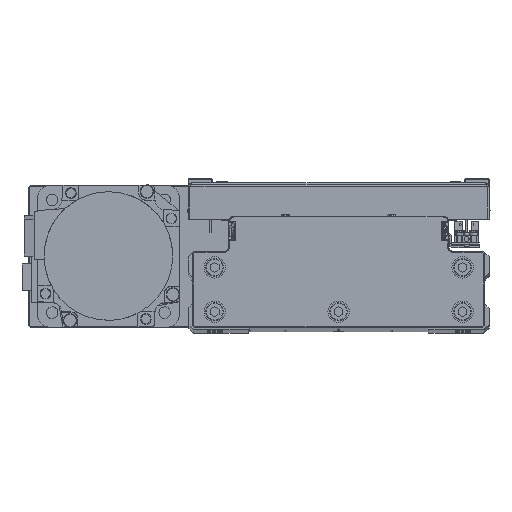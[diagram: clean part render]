
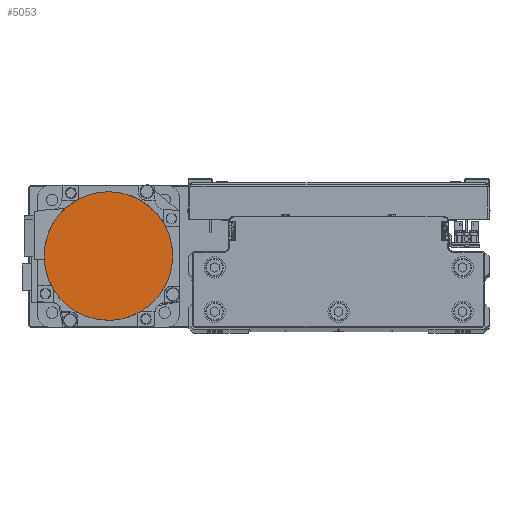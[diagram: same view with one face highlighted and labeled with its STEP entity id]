
A CAD part, top view. The second image highlights one B-rep face of the part: STEP entity #5053.
In plain terms, the highlighted planar face has unit normal (0, 0, 1) as drawn and (0, 0, -1) by its records, which use the part's own axes.
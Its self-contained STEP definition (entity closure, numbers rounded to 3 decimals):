
#571 = EDGE_CURVE ( 'NONE', #40578, #26205, #19629, .T. ) ;
#2186 = PLANE ( 'NONE',  #31482 ) ;
#2934 = CARTESIAN_POINT ( 'NONE',  ( -18.192, 31.502, -122.2 ) ) ;
#2985 = CARTESIAN_POINT ( 'NONE',  ( -18.192, -31.502, -122.2 ) ) ;
#4468 = CIRCLE ( 'NONE', #29986, 36.3 ) ;
#4546 = ORIENTED_EDGE ( 'NONE', *, *, #16336, .F. ) ;
#4824 = ORIENTED_EDGE ( 'NONE', *, *, #26633, .F. ) ;
#5053 = ADVANCED_FACE ( 'NONE', ( #33458 ), #2186, .F. ) ;
#6353 = CARTESIAN_POINT ( 'NONE',  ( -9.412, 35.139, -122.2 ) ) ;
#6402 = CARTESIAN_POINT ( 'NONE',  ( -27.348, -23.988, -122.2 ) ) ;
#6581 = CARTESIAN_POINT ( 'NONE',  ( -36.3, 2.376, -122.2 ) ) ;
#9777 = CARTESIAN_POINT ( 'NONE',  ( 0., 36.3, -122.2 ) ) ;
#9820 = CARTESIAN_POINT ( 'NONE',  ( -32.628, -16.086, -122.2 ) ) ;
#9995 = CARTESIAN_POINT ( 'NONE',  ( -34.446, 11.696, -122.2 ) ) ;
#11725 = DIRECTION ( 'NONE',  ( -1., 0., 0. ) ) ;
#12238 = CARTESIAN_POINT ( 'NONE',  ( 0., 36.3, -122.2 ) ) ;
#13269 = CARTESIAN_POINT ( 'NONE',  ( -36.066, -4.752, -122.2 ) ) ;
#13433 = CARTESIAN_POINT ( 'NONE',  ( -28.862, 22.143, -122.2 ) ) ;
#13474 = DIRECTION ( 'NONE',  ( -1., 0., 0. ) ) ;
#13480 = CARTESIAN_POINT ( 'NONE',  ( -4.752, -36.066, -122.2 ) ) ;
#14552 = B_SPLINE_CURVE_WITH_KNOTS ( 'NONE', 3,
 ( #9777, #23704, #37614, #6353, #20290, #34202, #2934, #16876, #30788, #44688, #13433, #27355, #41265, #9995, #23933, #37852, #6581, #20517 ),
 .UNSPECIFIED., .F., .F.,
 ( 4, 2, 2, 2, 2, 2, 2, 2, 4 ),
 ( 0., 0.125, 0.25, 0.375, 0.5, 0.625, 0.75, 0.875, 1. ),
 .UNSPECIFIED. ) ;
#14582 = CARTESIAN_POINT ( 'NONE',  ( -36.3, 0., -122.2 ) ) ;
#16123 = CARTESIAN_POINT ( 'NONE',  ( 0., 0., -122.2 ) ) ;
#16336 = EDGE_CURVE ( 'NONE', #33902, #40578, #4468, .T. ) ;
#16441 = CARTESIAN_POINT ( 'NONE',  ( 36.3, 0., -122.2 ) ) ;
#16876 = CARTESIAN_POINT ( 'NONE',  ( -22.143, 28.862, -122.2 ) ) ;
#16923 = CARTESIAN_POINT ( 'NONE',  ( -16.086, -32.628, -122.2 ) ) ;
#18626 = EDGE_LOOP ( 'NONE', ( #4546, #4824, #20532, #30587 ) ) ;
#19629 = CIRCLE ( 'NONE', #45110, 36.3 ) ;
#20290 = CARTESIAN_POINT ( 'NONE',  ( -11.696, 34.446, -122.2 ) ) ;
#20340 = CARTESIAN_POINT ( 'NONE',  ( -23.988, -27.348, -122.2 ) ) ;
#20517 = CARTESIAN_POINT ( 'NONE',  ( -36.3, 0., -122.2 ) ) ;
#20532 = ORIENTED_EDGE ( 'NONE', *, *, #30193, .F. ) ;
#23704 = CARTESIAN_POINT ( 'NONE',  ( -2.376, 36.3, -122.2 ) ) ;
#23758 = CARTESIAN_POINT ( 'NONE',  ( -31.502, -18.192, -122.2 ) ) ;
#23933 = CARTESIAN_POINT ( 'NONE',  ( -35.139, 9.412, -122.2 ) ) ;
#26205 = VERTEX_POINT ( 'NONE', #12238 ) ;
#26633 = EDGE_CURVE ( 'NONE', #31573, #33902, #33252, .T. ) ;
#27194 = CARTESIAN_POINT ( 'NONE',  ( -35.139, -9.412, -122.2 ) ) ;
#27355 = CARTESIAN_POINT ( 'NONE',  ( -31.502, 18.192, -122.2 ) ) ;
#27401 = CARTESIAN_POINT ( 'NONE',  ( -2.376, -36.3, -122.2 ) ) ;
#29088 = CARTESIAN_POINT ( 'NONE',  ( 0., 0., -122.2 ) ) ;
#29986 = AXIS2_PLACEMENT_3D ( 'NONE', #30829, #44727, #13474 ) ;
#30039 = DIRECTION ( 'NONE',  ( 0., 0., 1. ) ) ;
#30193 = EDGE_CURVE ( 'NONE', #26205, #31573, #14552, .T. ) ;
#30587 = ORIENTED_EDGE ( 'NONE', *, *, #571, .F. ) ;
#30615 = CARTESIAN_POINT ( 'NONE',  ( -36.3, 0., -122.2 ) ) ;
#30788 = CARTESIAN_POINT ( 'NONE',  ( -23.988, 27.348, -122.2 ) ) ;
#30829 = CARTESIAN_POINT ( 'NONE',  ( 0., 0., -122.2 ) ) ;
#30836 = CARTESIAN_POINT ( 'NONE',  ( -11.696, -34.446, -122.2 ) ) ;
#31482 = AXIS2_PLACEMENT_3D ( 'NONE', #16123, #30039, #43943 ) ;
#31573 = VERTEX_POINT ( 'NONE', #14582 ) ;
#33252 = B_SPLINE_CURVE_WITH_KNOTS ( 'NONE', 3,
 ( #30615, #44521, #13269, #27194, #41105, #9820, #23758, #37666, #6402, #20340, #34251, #2985, #16923, #30836, #44736, #13480, #27401, #41319 ),
 .UNSPECIFIED., .F., .F.,
 ( 4, 2, 2, 2, 2, 2, 2, 2, 4 ),
 ( 0., 0.125, 0.25, 0.375, 0.5, 0.625, 0.75, 0.875, 1. ),
 .UNSPECIFIED. ) ;
#33458 = FACE_OUTER_BOUND ( 'NONE', #18626, .T. ) ;
#33902 = VERTEX_POINT ( 'NONE', #34143 ) ;
#34143 = CARTESIAN_POINT ( 'NONE',  ( 0., -36.3, -122.2 ) ) ;
#34202 = CARTESIAN_POINT ( 'NONE',  ( -16.086, 32.628, -122.2 ) ) ;
#34251 = CARTESIAN_POINT ( 'NONE',  ( -22.143, -28.862, -122.2 ) ) ;
#37614 = CARTESIAN_POINT ( 'NONE',  ( -4.752, 36.066, -122.2 ) ) ;
#37666 = CARTESIAN_POINT ( 'NONE',  ( -28.862, -22.143, -122.2 ) ) ;
#37852 = CARTESIAN_POINT ( 'NONE',  ( -36.066, 4.752, -122.2 ) ) ;
#40578 = VERTEX_POINT ( 'NONE', #16441 ) ;
#41105 = CARTESIAN_POINT ( 'NONE',  ( -34.446, -11.696, -122.2 ) ) ;
#41265 = CARTESIAN_POINT ( 'NONE',  ( -32.628, 16.086, -122.2 ) ) ;
#41319 = CARTESIAN_POINT ( 'NONE',  ( 0., -36.3, -122.2 ) ) ;
#42989 = DIRECTION ( 'NONE',  ( 0., 0., 1. ) ) ;
#43943 = DIRECTION ( 'NONE',  ( 1., 0., 0. ) ) ;
#44521 = CARTESIAN_POINT ( 'NONE',  ( -36.3, -2.376, -122.2 ) ) ;
#44688 = CARTESIAN_POINT ( 'NONE',  ( -27.348, 23.988, -122.2 ) ) ;
#44727 = DIRECTION ( 'NONE',  ( 0., 0., 1. ) ) ;
#44736 = CARTESIAN_POINT ( 'NONE',  ( -9.412, -35.139, -122.2 ) ) ;
#45110 = AXIS2_PLACEMENT_3D ( 'NONE', #29088, #42989, #11725 ) ;
